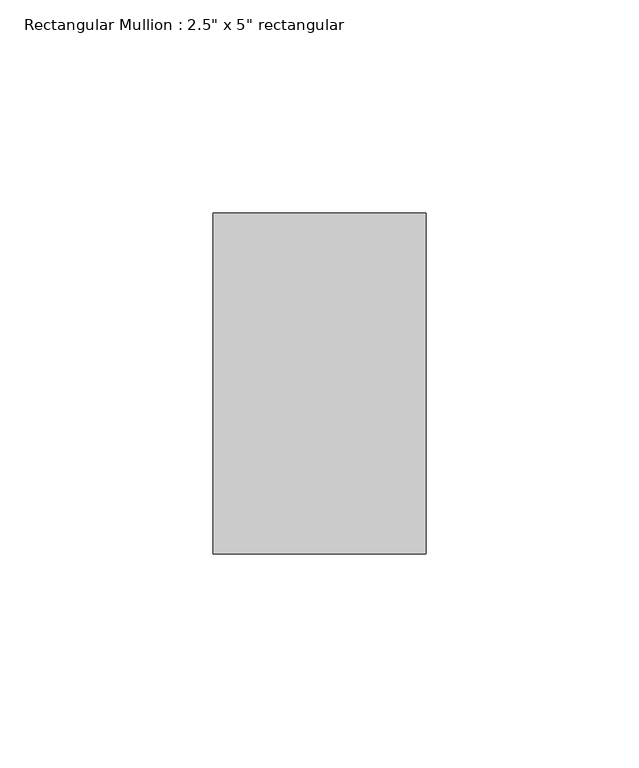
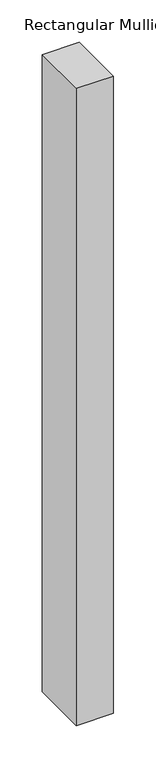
"""IFC4 building model written with IfcOpenShell, lengths in millimetres: member geometry."""

from ifc_helpers import new_model, si_unit, frame, origin, place, context, project, spatial, polyline, outline, extrude, source, transform, mapped, element, save


def member_e0c796fc(model_context):
    return source(origin(), model_context, "Body", "SweptSolid", [
        extrude(outline(polyline([(0.0, 40.0), (0.0, -40.0), (-50.0, -40.0), (-50.0, 40.0), (0.0, 40.0)])), frame((0.0, 0.0, -917.0000002), z_axis=(0.0, 0.0, 1.0), x_axis=(1.0, 0.0, 0.0)), (0.0, 0.0, 1.0), 917.0000002),
    ])


if __name__ == "__main__":
    model = new_model("IFC4")
    model_context = context("Model", 3, world=origin())
    ifc_project = project(units=[si_unit("LENGTHUNIT", "METRE", prefix="MILLI")], contexts=[model_context])
    site = spatial("IfcSite", under=ifc_project)
    building = spatial("IfcBuilding", under=site)
    placement = place(None, origin())
    member_shape = member_e0c796fc(model_context)
    element("IfcMember", 1, ObjectType="Rectangular Mullion : 2.5\" x 5\" rectangular", at=placement, inside=building, context=model_context, shape_type="MappedRepresentation", body=[
        mapped(member_shape, transform((0.0, 0.0, 0.0), x_axis=(1.0, 0.0, 0.0), y_axis=(0.0, 1.0, 0.0), z_axis=(0.0, 0.0, 1.0))),
    ])
    save(model, "model.ifc")
